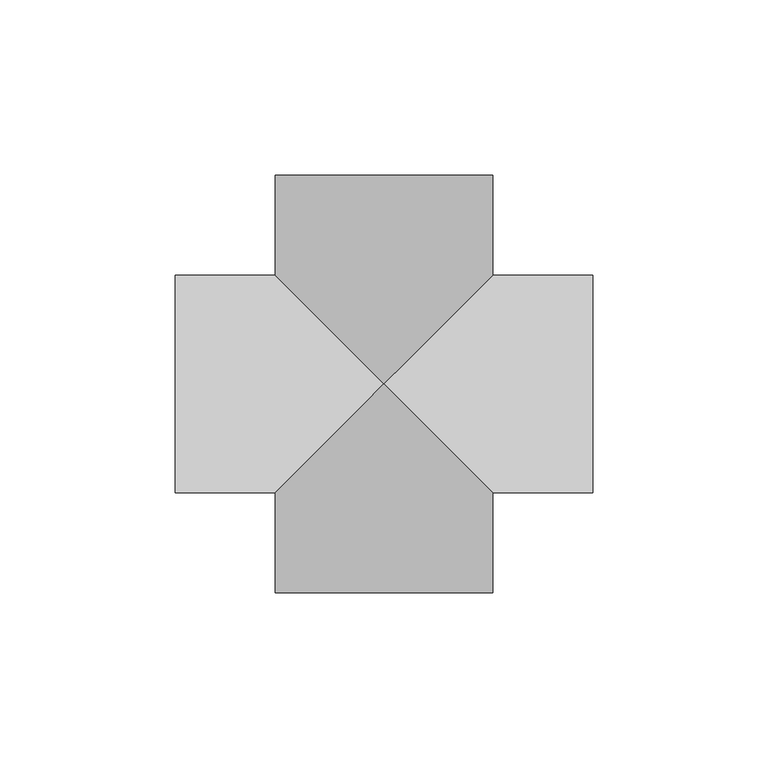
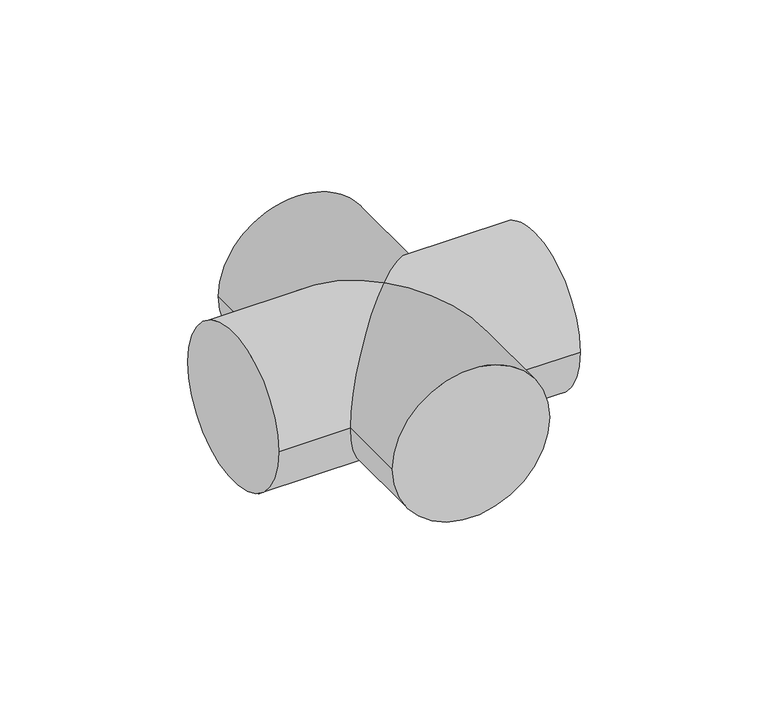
"""IFC4 building model written with IfcOpenShell, lengths in millimetres: pipe fitting geometry, 01051068 : Cruces."""

from ifc_helpers import new_model, si_unit, frame, origin, place, context, project, spatial, circle_curve, ellipse_curve, source, transform, mapped, element, save
from ifc_brep_helpers import plane_surface, cylinder_surface, advanced_brep


def pipe_fitting_d3da2447(model_context):
    return source(origin(), model_context, "Body", "AdvancedBrep", [
        advanced_brep(
        [(-31.0, 59.5, 0.0), (31.0, 59.5, 0.0), (-31.0, -59.5, 0.0), (31.0, -59.5, 0.0), (-31.0, 31.0, 0.0), (0.0, 0.0, 31.0), (31.0, 31.0, 0.0), (31.0, -31.0, 0.0), (-31.0, -31.0, 0.0), (0.0, 0.0, -31.0), (59.5, 31.0, 0.0), (59.5, -31.0, 0.0), (-59.5, 31.0, 0.0), (-59.5, -31.0, 0.0)],
        [
            (0, 1, circle_curve(frame((0.0, 59.5, 0.0), z_axis=(0.0, 1.0, 0.0), x_axis=(1.0, 0.0, 0.0)), 31.0)),
            (1, 0, circle_curve(frame((0.0, 59.5, 0.0), z_axis=(0.0, 1.0, 0.0), x_axis=(1.0, 0.0, 0.0)), 31.0)),
            (2, 3, circle_curve(frame((0.0, -59.5, 0.0), z_axis=(0.0, -1.0, 0.0), x_axis=(1.0, 0.0, 0.0)), 31.0)),
            (3, 2, circle_curve(frame((0.0, -59.5, 0.0), z_axis=(0.0, -1.0, 0.0), x_axis=(1.0, 0.0, 0.0)), 31.0)),
            (0, 4),
            (4, 5, ellipse_curve(frame((0.0, 0.0, 0.0), z_axis=(0.7071067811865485, 0.7071067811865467, 0.0), x_axis=(-0.7071067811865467, 0.7071067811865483, 0.0)), 43.8406204, 31.0)),
            (5, 6, ellipse_curve(frame((0.0, 0.0, 0.0), z_axis=(-0.7071067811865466, 0.7071067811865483, 0.0), x_axis=(0.7071067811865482, 0.7071067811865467, 0.0)), 43.8406204, 31.0)),
            (6, 1),
            (3, 7),
            (7, 5, ellipse_curve(frame((0.0, 0.0, 0.0), z_axis=(-0.7071067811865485, -0.7071067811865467, 0.0), x_axis=(-0.7071067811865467, 0.7071067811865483, 0.0)), 43.8406204, 31.0)),
            (5, 8, ellipse_curve(frame((0.0, 0.0, 0.0), z_axis=(0.7071067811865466, -0.7071067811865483, 0.0), x_axis=(0.7071067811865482, 0.7071067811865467, 0.0)), 43.8406204, 31.0)),
            (8, 2),
            (6, 9, ellipse_curve(frame((0.0, 0.0, 0.0), z_axis=(-0.7071067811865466, 0.7071067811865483, 0.0), x_axis=(0.7071067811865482, 0.7071067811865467, 0.0)), 43.8406204, 31.0)),
            (9, 4, ellipse_curve(frame((0.0, 0.0, 0.0), z_axis=(0.7071067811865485, 0.7071067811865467, 0.0), x_axis=(-0.7071067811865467, 0.7071067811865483, 0.0)), 43.8406204, 31.0)),
            (8, 9, ellipse_curve(frame((0.0, 0.0, 0.0), z_axis=(0.7071067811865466, -0.7071067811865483, 0.0), x_axis=(0.7071067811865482, 0.7071067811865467, 0.0)), 43.8406204, 31.0)),
            (9, 7, ellipse_curve(frame((0.0, 0.0, 0.0), z_axis=(-0.7071067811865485, -0.7071067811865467, 0.0), x_axis=(-0.7071067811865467, 0.7071067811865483, 0.0)), 43.8406204, 31.0)),
            (10, 11, circle_curve(frame((59.5, 0.0, 0.0), z_axis=(1.0, 0.0, 0.0), x_axis=(0.0, -1.0, 0.0)), 31.0)),
            (11, 10, circle_curve(frame((59.5, 0.0, 0.0), z_axis=(1.0, 0.0, 0.0), x_axis=(0.0, -1.0, 0.0)), 31.0)),
            (12, 13, circle_curve(frame((-59.5, 0.0, 0.0), z_axis=(-1.0, 0.0, 0.0), x_axis=(0.0, -1.0, 0.0)), 31.0)),
            (13, 12, circle_curve(frame((-59.5, 0.0, 0.0), z_axis=(-1.0, 0.0, 0.0), x_axis=(0.0, -1.0, 0.0)), 31.0)),
            (10, 6),
            (7, 11),
            (13, 8),
            (4, 12),
        ],
        [
            plane_surface(frame((0.0, 59.5, 0.0), z_axis=(0.0, 1.0, 0.0), x_axis=(0.0, 0.0, 1.0))),
            plane_surface(frame((0.0, -59.5, 0.0), z_axis=(0.0, -1.0, 0.0), x_axis=(0.0, 0.0, 1.0))),
            cylinder_surface(frame((0.0, 59.5, 0.0), z_axis=(0.0, 1.0, 0.0), x_axis=(1.0, 0.0, 0.0)), 31.0),
            plane_surface(frame((59.5, 0.0, 0.0), z_axis=(1.0, 0.0, 0.0), x_axis=(0.0, 0.0, 1.0))),
            plane_surface(frame((-59.5, 0.0, 0.0), z_axis=(-1.0, 0.0, 0.0), x_axis=(0.0, 0.0, 1.0))),
            cylinder_surface(frame((59.5, 0.0, 0.0), z_axis=(1.0, 0.0, 0.0), x_axis=(0.0, -1.0, 0.0)), 31.0),
        ],
        [
            (0, [[1, 2]]),
            (1, [[3, 4]]),
            (2, [[-1, 5, 6, 7, 8]]),
            (2, [[-4, 9, 10, 11, 12]]),
            (2, [[-2, -8, 13, 14, -5]]),
            (2, [[-3, -12, 15, 16, -9]]),
            (3, [[17, 18]]),
            (4, [[19, 20]]),
            (5, [[-17, 21, -7, -10, 22]]),
            (5, [[-20, 23, -11, -6, 24]]),
            (5, [[-18, -22, -16, -13, -21]]),
            (5, [[-19, -24, -14, -15, -23]]),
        ],
    ),
    ])


if __name__ == "__main__":
    model = new_model("IFC4")
    model_context = context("Model", 3, world=origin())
    ifc_project = project(units=[si_unit("LENGTHUNIT", "METRE", prefix="MILLI")], contexts=[model_context])
    site = spatial("IfcSite", under=ifc_project)
    building = spatial("IfcBuilding", under=site)
    placement = place(None, origin())
    pipe_fitting_shape = pipe_fitting_d3da2447(model_context)
    element("IfcPipeFitting", 1, ObjectType="01051068 : Cruces", at=placement, inside=building, context=model_context, shape_type="MappedRepresentation", body=[
        mapped(pipe_fitting_shape, transform((0.0, 0.0, 0.0), x_axis=(1.0, 0.0, 0.0), y_axis=(0.0, 1.0, 0.0), z_axis=(0.0, 0.0, 1.0))),
    ])
    save(model, "model.ifc")
